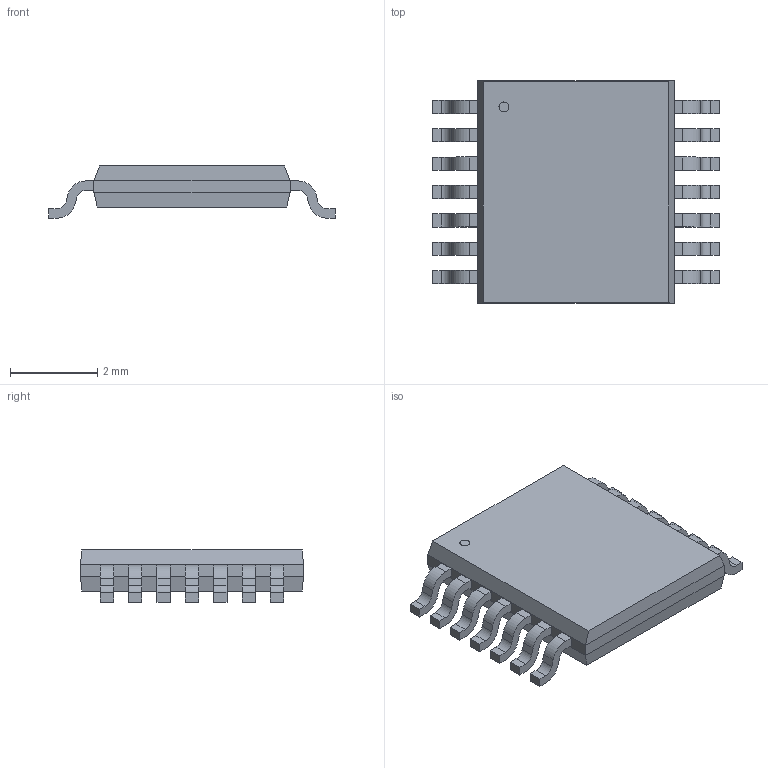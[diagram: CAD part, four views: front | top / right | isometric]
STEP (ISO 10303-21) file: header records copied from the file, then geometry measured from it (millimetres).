
FILE_DESCRIPTION(('STEP AP214'),'1');
FILE_NAME('TSSOP14_4P5X6P1_ONS','2025-11-04T01:49:06',(''),(''),'','','');
FILE_SCHEMA(('AUTOMOTIVE_DESIGN'));
Length unit declared in the file: millimetre
Products named in the file (1): product
Bounding box: 6.55 x 5.11 x 1.2 mm (x, y, z)
Volume: 22.4 mm3; surface area: 83.4 mm2
Topology: 16 solids, 16 shells, 213 faces, 535 edges, 354 vertices
Faces by surface type: plane 156, cylinder 57
Full cylindrical faces by diameter (mm): 0.225 x1
Entity records: 6213 total; most frequent: DIRECTION 1078, ORIENTED_EDGE 1068, CARTESIAN_POINT 627, EDGE_CURVE 534, LINE 420, VECTOR 420, VERTEX_POINT 354, AXIS2_PLACEMENT_3D 329
